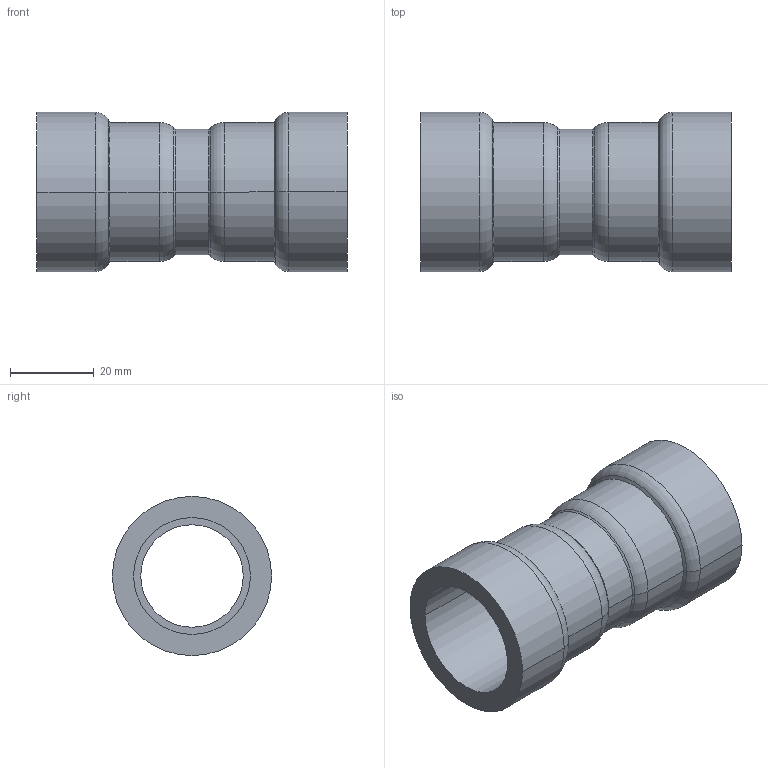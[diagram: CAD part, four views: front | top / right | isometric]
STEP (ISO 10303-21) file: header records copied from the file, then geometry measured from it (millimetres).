
FILE_DESCRIPTION(('Creo Elements/Direct Modeling STEP Export'),'2;1');
FILE_NAME('C9401_3-4.stp','2020-06-08T10:10:18',(''),(''),'PTC Creo Elements/Direct Modeling STEP processor for AP214 (Solid Model)','PTC Creo Elements/Direct Modeling 19.0C 15-Aug-2015 (C) Parametric Technology GmbH','');
FILE_SCHEMA(('AUTOMOTIVE_DESIGN { 1 0 10303 214 1 1 1 1 }'));
Length unit declared in the file: millimetre
Products named in the file (1): C9401_3-4.prt
Bounding box: 73.9 x 37.9 x 37.9 mm (x, y, z)
Volume: 27309.8 mm3; surface area: 16062.4 mm2
Topology: 1 solids, 1 shells, 36 faces, 72 edges, 40 vertices
Faces by surface type: cylinder 16, torus 8, cone 8, plane 4
Entity records: 858 total; most frequent: DIRECTION 154, ORIENTED_EDGE 144, CARTESIAN_POINT 129, EDGE_CURVE 72, AXIS2_PLACEMENT_3D 65, VERTEX_POINT 40, EDGE_LOOP 40, FACE_OUTER_BOUND 36
